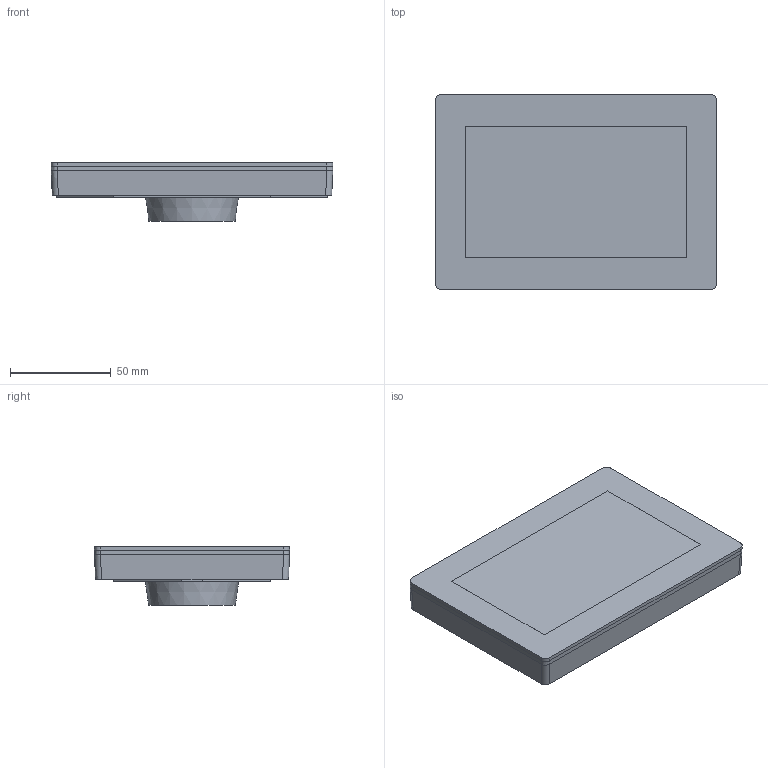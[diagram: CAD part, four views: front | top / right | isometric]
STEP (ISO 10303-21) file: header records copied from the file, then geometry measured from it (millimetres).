
FILE_DESCRIPTION(/* description */ ('STEP AP242','CAx-IF Rec.Pracs.---Representation and Presentation of Product Manufacturing Information (PMI)---4.0---2014-10-13','CAx-IF Rec.Pracs.---3D Tessellated Geometry---0.4---2014-09-14','2;1'),/* implementation_level */ '2;1');
FILE_NAME(/* name */ '6634ebb47859092b1b9c4907',/* time_stamp */ '2024-05-03T13:50:45Z',/* author */ (''),/* organization */ (''),/* preprocessor_version */ 'ST-DEVELOPER v20',/* originating_system */ ' ',/* authorisation */ ' ');
FILE_SCHEMA (('AP242_MANAGED_MODEL_BASED_3D_ENGINEERING_MIM_LF { 1 0 10303 442 1 1 4 }'));
Length unit declared in the file: metre
Products named in the file (3): Touch; Touch 8 W; UMP 5
Assembly tree (2 placements, depth 2):
  Touch
    Touch 8 W
    UMP 5
Bounding box: 140 x 97 x 29.4 mm (x, y, z)
Volume: 252233.2 mm3; surface area: 50507.7 mm2
Topology: 2 solids, 2 shells, 86 faces, 194 edges, 124 vertices
Faces by surface type: plane 56, cylinder 21, cone 5, bspline 4
Full cylindrical faces by diameter (mm): 2.5 x4, 4.5 x4, 5.1 x8, 49 x1
Entity records: 2459 total; most frequent: CARTESIAN_POINT 465, DIRECTION 398, ORIENTED_EDGE 352, EDGE_CURVE 176, AXIS2_PLACEMENT_3D 137, EDGE_LOOP 134, FACE_BOUND 134, VERTEX_POINT 124
